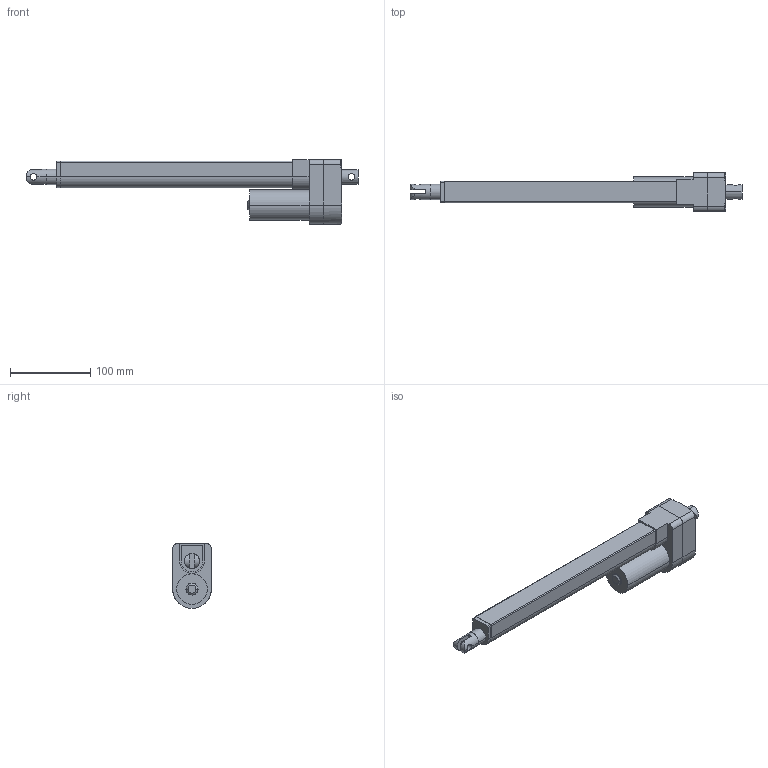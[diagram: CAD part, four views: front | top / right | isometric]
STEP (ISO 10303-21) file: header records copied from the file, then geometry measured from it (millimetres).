
FILE_DESCRIPTION((''),'2;1');
FILE_NAME('LAS3-S100_ASM','2007-07-11T',('amyliao'),(''),'PRO/ENGINEER BY PARAMETRIC TECHNOLOGY CORPORATION, 2003210','PRO/ENGINEER BY PARAMETRIC TECHNOLOGY CORPORATION, 2003210','');
FILE_SCHEMA(('CONFIG_CONTROL_DESIGN'));
Length unit declared in the file: millimetre
Products named in the file (8): 001; 002; LAS-MOTOR; OUT-TUB; 1; LAS-IN-TUB; LAS-IN-PLUG; LAS3-S100_ASM
Assembly tree (7 placements, depth 2):
  LAS3-S100_ASM
    001
    002
    LAS-MOTOR
    OUT-TUB
    1
    LAS-IN-TUB
    LAS-IN-PLUG
Bounding box: 413.35 x 48 x 80.5 mm (x, y, z)
Volume: 248076.4 mm3; surface area: 130169.4 mm2
Topology: 7 solids, 7 shells, 157 faces, 408 edges, 270 vertices
Faces by surface type: cylinder 79, plane 76, cone 2
Entity records: 5300 total; most frequent: CARTESIAN_POINT 1062, DIRECTION 894, ORIENTED_EDGE 816, EDGE_CURVE 408, AXIS2_PLACEMENT_3D 326, VERTEX_POINT 270, VECTOR 242, LINE 242
